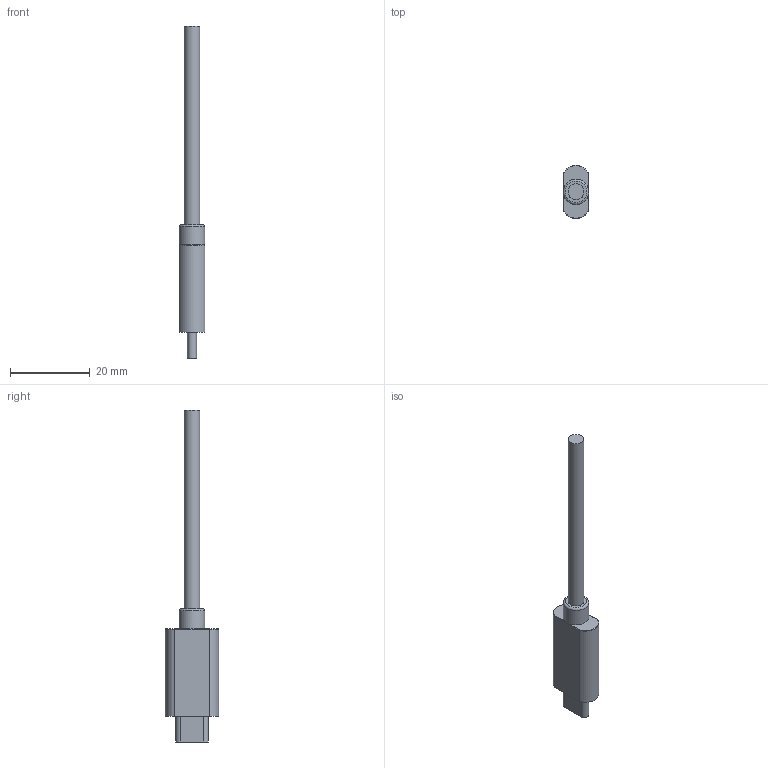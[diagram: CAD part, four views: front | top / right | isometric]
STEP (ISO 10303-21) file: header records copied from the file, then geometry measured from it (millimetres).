
FILE_DESCRIPTION(('FreeCAD Model'),'2;1');
FILE_NAME('Open CASCADE Shape Model','2026-06-16T10:32:16',(''),(''), 'Open CASCADE STEP processor 7.8','FreeCAD','Unknown');
FILE_SCHEMA(('AUTOMOTIVE_DESIGN { 1 0 10303 214 1 1 1 1 }'));
Length unit declared in the file: millimetre
Products named in the file (1): FW-406-USB31-CM-X_M
Bounding box: 6.5 x 13.38 x 83.5 mm (x, y, z)
Volume: 2641.4 mm3; surface area: 1765.4 mm2
Topology: 1 solids, 1 shells, 26 faces, 56 edges, 34 vertices
Faces by surface type: cylinder 10, plane 10, bspline 3, torus 3
Full cylindrical faces by diameter (mm): 4 x1, 6.4 x1
Entity records: 804 total; most frequent: CARTESIAN_POINT 247, ORIENTED_EDGE 112, DIRECTION 110, EDGE_CURVE 56, AXIS2_PLACEMENT_3D 43, VERTEX_POINT 34, FACE_BOUND 28, EDGE_LOOP 28
